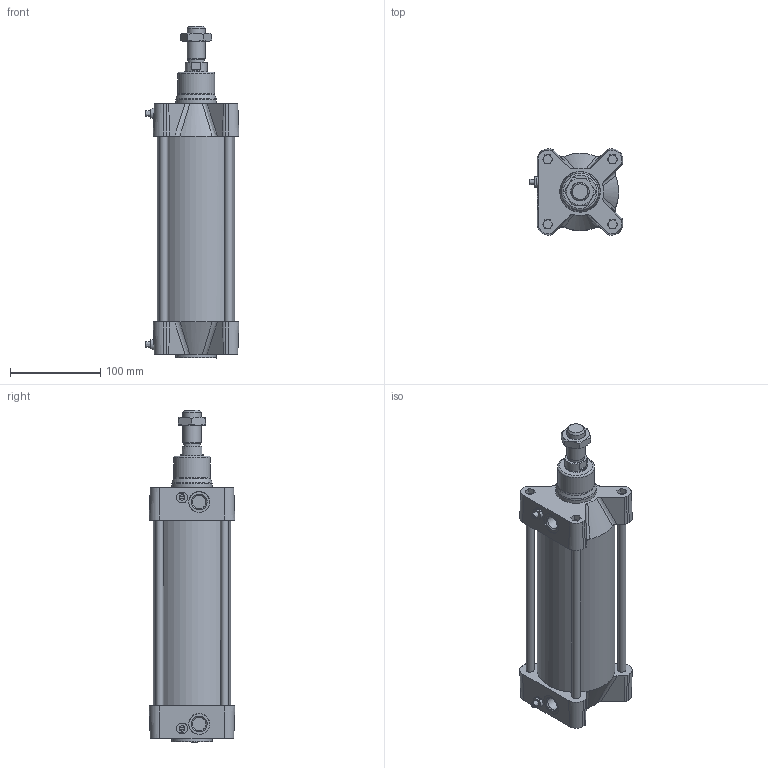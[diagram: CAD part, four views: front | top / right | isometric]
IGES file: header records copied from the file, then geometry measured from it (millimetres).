
Global section: file name: 1393_080_0150_01; native system: Autodesk Inventor 2014; preprocessor: unknown; author: A. Manieri; date: 20151130.150749; units: millimetre
Bounding box: 104 x 95 x 368 mm (x, y, z)
Volume: 1114866.8 mm3; surface area: 248080.7 mm2
Topology: 3 solids, 5 shells, 233 faces, 578 edges, 377 vertices
Faces by surface type: bspline 233
